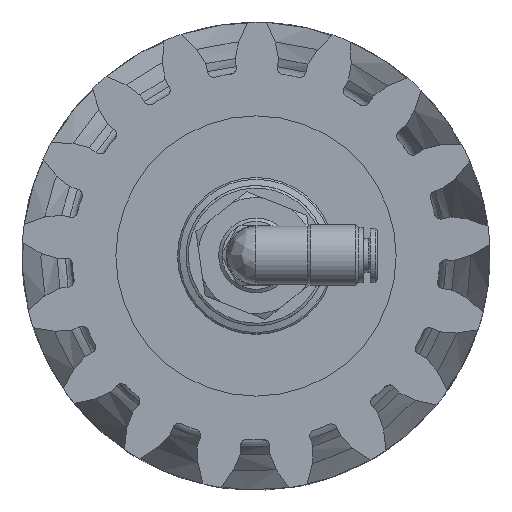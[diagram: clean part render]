
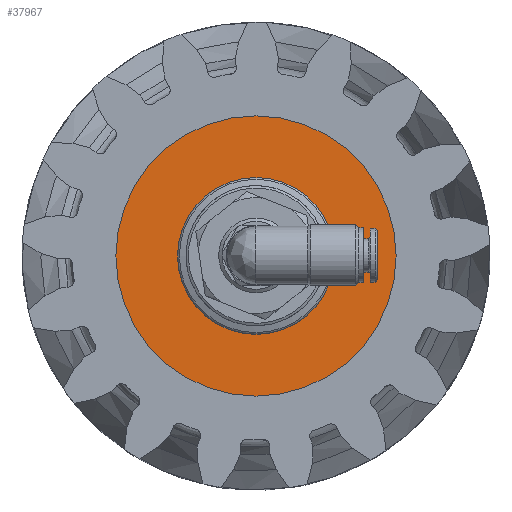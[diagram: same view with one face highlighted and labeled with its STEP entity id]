
A CAD part, top view. The second image highlights one B-rep face of the part: STEP entity #37967.
In plain terms, the highlighted planar face has unit normal (0, 0, 1) as drawn and (0, 1, 0) by its records, which use the part's own axes.
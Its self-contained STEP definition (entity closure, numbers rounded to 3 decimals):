
#4629 = CIRCLE ( 'NONE', #45709, 16.8 ) ;
#10771 = FACE_OUTER_BOUND ( 'NONE', #27668, .T. ) ;
#11642 = FACE_BOUND ( 'NONE', #20378, .T. ) ;
#12407 = DIRECTION ( 'NONE',  ( 0., 0., 1. ) ) ;
#13008 = CARTESIAN_POINT ( 'NONE',  ( 0., 0.6, 0. ) ) ;
#13730 = ORIENTED_EDGE ( 'NONE', *, *, #17705, .F. ) ;
#14200 = VERTEX_POINT ( 'NONE', #19000 ) ;
#16078 = ORIENTED_EDGE ( 'NONE', *, *, #16817, .T. ) ;
#16330 = DIRECTION ( 'NONE',  ( 0., 0., 1. ) ) ;
#16817 = EDGE_CURVE ( 'NONE', #14200, #14200, #53358, .T. ) ;
#17705 = EDGE_CURVE ( 'NONE', #55530, #55530, #4629, .T. ) ;
#19000 = CARTESIAN_POINT ( 'NONE',  ( 0., 0.6, 30. ) ) ;
#20378 = EDGE_LOOP ( 'NONE', ( #13730 ) ) ;
#24536 = CARTESIAN_POINT ( 'NONE',  ( 30., 0.6, 0. ) ) ;
#25121 = DIRECTION ( 'NONE',  ( 0., 0., -1. ) ) ;
#27668 = EDGE_LOOP ( 'NONE', ( #16078 ) ) ;
#35159 = CARTESIAN_POINT ( 'NONE',  ( 0., 0.6, 0. ) ) ;
#35636 = AXIS2_PLACEMENT_3D ( 'NONE', #24536, #57151, #25121 ) ;
#37967 = ADVANCED_FACE ( 'NONE', ( #11642, #10771 ), #48469, .F. ) ;
#45709 = AXIS2_PLACEMENT_3D ( 'NONE', #13008, #49263, #16330 ) ;
#46849 = CARTESIAN_POINT ( 'NONE',  ( 0., 0.6, 16.8 ) ) ;
#48469 = PLANE ( 'NONE',  #35636 ) ;
#49263 = DIRECTION ( 'NONE',  ( 0., 1., 0. ) ) ;
#49534 = AXIS2_PLACEMENT_3D ( 'NONE', #35159, #53423, #12407 ) ;
#53358 = CIRCLE ( 'NONE', #49534, 30. ) ;
#53423 = DIRECTION ( 'NONE',  ( 0., 1., 0. ) ) ;
#55530 = VERTEX_POINT ( 'NONE', #46849 ) ;
#57151 = DIRECTION ( 'NONE',  ( 0., -1., 0. ) ) ;
